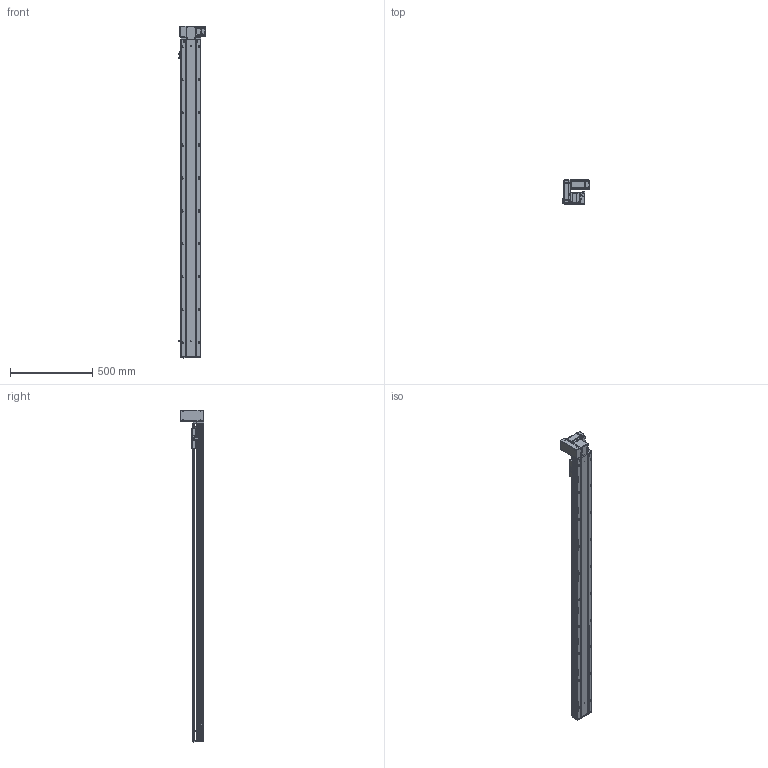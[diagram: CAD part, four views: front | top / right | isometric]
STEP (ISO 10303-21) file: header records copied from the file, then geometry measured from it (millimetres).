
FILE_DESCRIPTION (( 'STEP AP203' ), '1' );
FILE_NAME ('RY120-T-300-UL.SLDASM_1700.step', '2021-03-01T05:37:23', ( '盈信电脑' ), ( '东莞市道滘镇水果街19号' ), 'SwSTEP 2.0', 'SolidWorks 2012', '' );
FILE_SCHEMA (( 'CONFIG_CONTROL_DESIGN' ));
Length unit declared in the file: millimetre
Products named in the file (18): RY120-T-300-UL.SLDASM_1700; RY120-T翋肮祭謫裔啣; RY120-T萇儂欶; RY120-T主同步轮轴承压盖; 滅袉蝶18-10; RY120-T蹟翐M4; 15; 侂狟400W侜督萇儂; RY120-T萇儂假蚾啣; RY120-T肮祭湍揤踡輸2; RY120-T肮祭湍揤踡輸1; RY120外置感应片(140共用）; RY120-T翋肮祭盓傅釱; 覜茼ん672; RY120-T-300-UL倰第奻裔啣_1700; RY120綴裔啣; RY120肮祭湍臏賑輸; RY120-T-300-UL倰第菁釱_1700
Assembly tree (23 placements, depth 3):
  RY120-T-300-UL.SLDASM_1700
    RY120-T-300-UL倰第菁釱_1700
    RY120-T-300-UL倰第奻裔啣_1700
    RY120肮祭湍臏賑輸
    RY120綴裔啣
    覜茼ん672  x3
    RY120外置感应片(140共用）
    RY120-T肮祭湍揤踡輸1
    RY120-T肮祭湍揤踡輸2
    RY120-T翋肮祭盓傅釱
    RY120-T萇儂假蚾啣
    侂狟400W侜督萇儂
      15
    RY120-T主同步轮轴承压盖
    滅袉蝶18-10  x2
    RY120-T萇儂欶
    RY120-T蹟翐M4  x4
    RY120-T翋肮祭謫裔啣
Bounding box: 164.2 x 146 x 2021 mm (x, y, z)
Volume: 5149400.3 mm3; surface area: 1958056.6 mm2
Topology: 23 solids, 23 shells, 3034 faces, 8296 edges, 5294 vertices
Faces by surface type: plane 1442, cylinder 1200, cone 303, bspline 89
Entity records: 97480 total; most frequent: CARTESIAN_POINT 25306, ORIENTED_EDGE 14920, DIRECTION 14082, EDGE_CURVE 7460, VERTEX_POINT 4881, AXIS2_PLACEMENT_3D 4769, LINE 4544, VECTOR 4544
